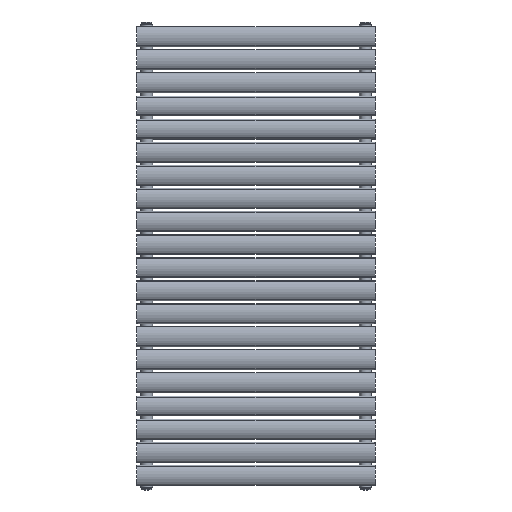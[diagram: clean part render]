
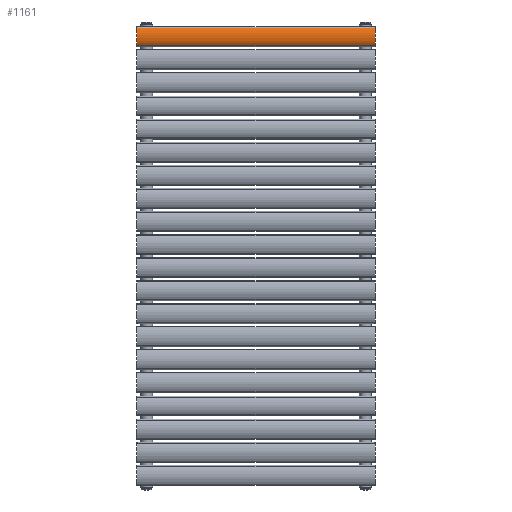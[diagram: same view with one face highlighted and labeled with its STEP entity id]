
A CAD part, top view. The second image highlights one B-rep face of the part: STEP entity #1161.
In plain terms, the highlighted cylindrical face has radius 39.5 mm (diameter 79 mm), a partial arc.
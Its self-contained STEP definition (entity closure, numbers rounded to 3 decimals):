
#211=LINE('',#3068,#243);
#212=LINE('',#3072,#244);
#243=VECTOR('',#1438,10.);
#244=VECTOR('',#1441,10.);
#317=CIRCLE('',#1263,39.5);
#318=CIRCLE('',#1264,39.5);
#435=FACE_OUTER_BOUND('',#542,.T.);
#542=EDGE_LOOP('',(#972,#973,#974,#975));
#694=VERTEX_POINT('',#3066);
#695=VERTEX_POINT('',#3067);
#696=VERTEX_POINT('',#3069);
#697=VERTEX_POINT('',#3071);
#797=EDGE_CURVE('',#694,#695,#211,.T.);
#798=EDGE_CURVE('',#696,#694,#317,.T.);
#799=EDGE_CURVE('',#697,#696,#212,.T.);
#800=EDGE_CURVE('',#695,#697,#318,.T.);
#972=ORIENTED_EDGE('',*,*,#797,.F.);
#973=ORIENTED_EDGE('',*,*,#798,.F.);
#974=ORIENTED_EDGE('',*,*,#799,.F.);
#975=ORIENTED_EDGE('',*,*,#800,.F.);
#1128=CYLINDRICAL_SURFACE('',#1262,39.5);
#1161=ADVANCED_FACE('',(#435),#1128,.T.);
#1262=AXIS2_PLACEMENT_3D('',#3065,#1436,#1437);
#1263=AXIS2_PLACEMENT_3D('',#3070,#1439,#1440);
#1264=AXIS2_PLACEMENT_3D('',#3073,#1442,#1443);
#1436=DIRECTION('center_axis',(0.,0.,1.));
#1437=DIRECTION('ref_axis',(-0.552,-0.834,0.));
#1438=DIRECTION('',(0.,0.,-1.));
#1439=DIRECTION('center_axis',(0.,0.,1.));
#1440=DIRECTION('ref_axis',(-0.552,-0.834,0.));
#1441=DIRECTION('',(0.,0.,1.));
#1442=DIRECTION('center_axis',(0.,0.,-1.));
#1443=DIRECTION('ref_axis',(-0.552,-0.834,0.));
#3065=CARTESIAN_POINT('Origin',(0.,14.5,0.));
#3066=CARTESIAN_POINT('',(21.816,-18.429,300.));
#3067=CARTESIAN_POINT('',(21.816,-18.429,-300.));
#3068=CARTESIAN_POINT('',(21.816,-18.429,0.));
#3069=CARTESIAN_POINT('',(-21.816,-18.429,300.));
#3070=CARTESIAN_POINT('Origin',(0.,14.5,300.));
#3071=CARTESIAN_POINT('',(-21.816,-18.429,-300.));
#3072=CARTESIAN_POINT('',(-21.816,-18.429,0.));
#3073=CARTESIAN_POINT('Origin',(0.,14.5,-300.));
